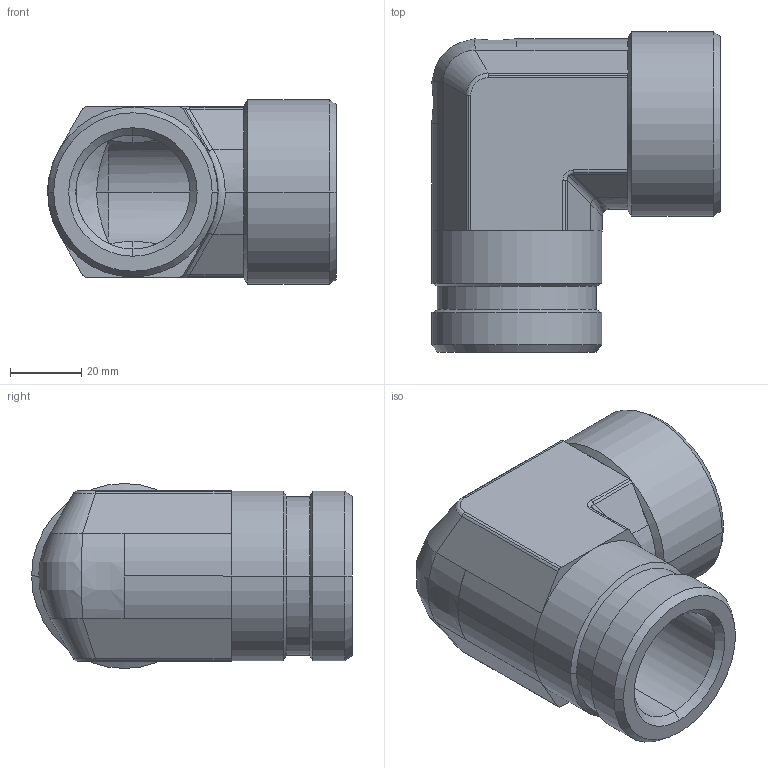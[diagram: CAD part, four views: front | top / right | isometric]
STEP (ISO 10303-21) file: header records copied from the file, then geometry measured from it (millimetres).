
FILE_DESCRIPTION((''),'2;1');
FILE_NAME('106123.stp','2007-10-31T14:48:50',(''),(''),'AutoCAD STEP 2000i','AutoCAD 2000i',', , ');
FILE_SCHEMA(('CONFIG_CONTROL_DESIGN'));
Length unit declared in the file: millimetre
Products named in the file (2): 106123.0; 3090#0
Assembly tree (1 placements, depth 2):
  106123.0
    3090#0
Bounding box: 80.88 x 89.91 x 51.82 mm (x, y, z)
Volume: 126190.6 mm3; surface area: 33486.1 mm2
Topology: 1 solids, 1 shells, 105 faces, 235 edges, 134 vertices
Faces by surface type: cylinder 48, cone 23, plane 22, bspline 12
Entity records: 3799 total; most frequent: CARTESIAN_POINT 1357, DIRECTION 524, ORIENTED_EDGE 470, EDGE_CURVE 235, AXIS2_PLACEMENT_3D 215, VERTEX_POINT 134, EDGE_LOOP 109, FACE_OUTER_BOUND 105
